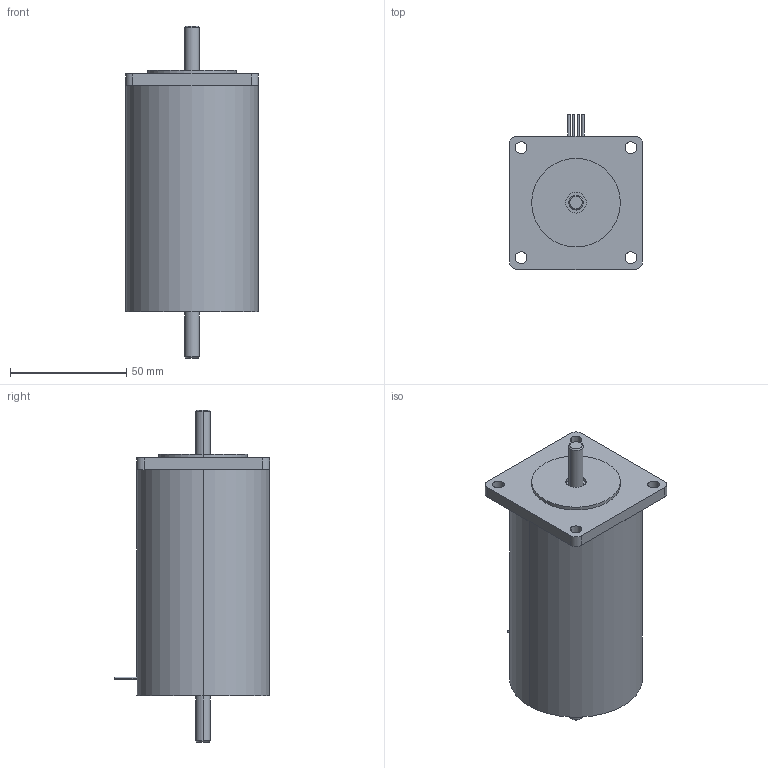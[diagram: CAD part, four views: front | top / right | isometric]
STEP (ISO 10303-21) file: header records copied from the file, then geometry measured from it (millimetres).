
FILE_DESCRIPTION((''),'2;1');
FILE_NAME('C:\Documents and Settings\rbadgerow\Desktop\webmodelmain\web step 3d\5618c\5618c d.stp','2005-05-23T06:46:54',('rbadgerow'),(''),'Autodesk Inventor 9','Autodesk Inventor 9','');
FILE_SCHEMA(('AUTOMOTIVE_DESIGN { 1 0 10303 214 1 1 1 1 }'));
Length unit declared in the file: inch
Products named in the file (1): 5618c d
Bounding box: 57.15 x 66.67 x 142.75 mm (x, y, z)
Volume: 268617 mm3; surface area: 26488.2 mm2
Topology: 2 solids, 2 shells, 56 faces, 123 edges, 79 vertices
Faces by surface type: cylinder 32, plane 20, cone 4
Entity records: 1718 total; most frequent: CARTESIAN_POINT 395, DIRECTION 292, ORIENTED_EDGE 246, EDGE_CURVE 123, AXIS2_PLACEMENT_3D 120, VERTEX_POINT 79, EDGE_LOOP 72, CIRCLE 63
